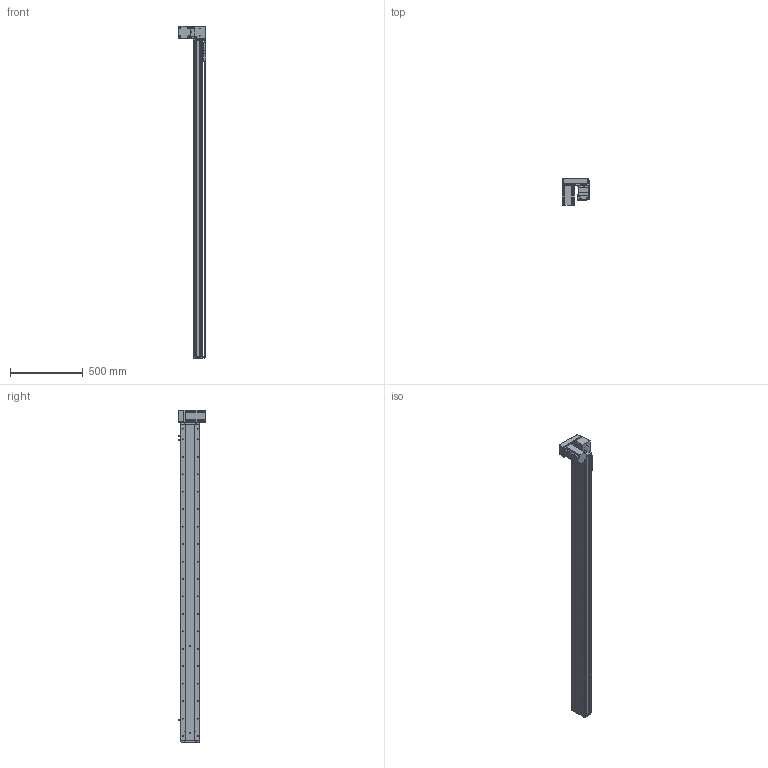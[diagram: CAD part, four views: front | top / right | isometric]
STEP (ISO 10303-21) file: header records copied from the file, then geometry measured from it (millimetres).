
FILE_DESCRIPTION (( 'STEP AP214' ), '1' );
FILE_NAME ('KSD130B-S1950-MRD-CM.STEP', '2019-11-16T02:11:26', ( '微软用户' ), ( '微软中国' ), 'SwSTEP 2.0', 'SolidWorks 2014', '' );
FILE_SCHEMA (( 'AUTOMOTIVE_DESIGN' ));
Length unit declared in the file: millimetre
Products named in the file (12): 覜茼え100遵圉猾敕; U倰嫖萇EEㄜSX672; 130宽盖板半封闭同步带-1950行程; 130宽马达安装板同步带右-改镜向_默认<按加工>; 130宽马达安装板同步带半封闭; 130宽同步带安装座半封闭; 130宽端盖同步带半封闭; 130宽底板半封闭同步带-1950行程; KSD130B-S1950-MRD-CM; 130宽模组保护罩上下左右折-同步带; 台达ECMA－C20807AS伺服电机; 130宽模组马达安装板连板上下折丝杆同步带
Assembly tree (13 placements, depth 2):
  KSD130B-S1950-MRD-CM
    130宽底板半封闭同步带-1950行程
    130宽端盖同步带半封闭
    130宽同步带安装座半封闭
    130宽马达安装板同步带半封闭
    130宽马达安装板同步带右-改镜向_默认<按加工>
    130宽盖板半封闭同步带-1950行程
    U倰嫖萇EEㄜSX672  x3
    覜茼え100遵圉猾敕
    130宽模组马达安装板连板上下折丝杆同步带
    台达ECMA－C20807AS伺服电机
    130宽模组保护罩上下左右折-同步带
Bounding box: 186 x 184.8 x 2283 mm (x, y, z)
Volume: 7527930.2 mm3; surface area: 2143111.6 mm2
Topology: 14 solids, 14 shells, 1779 faces, 5205 edges, 3291 vertices
Faces by surface type: cylinder 882, plane 658, cone 239
Entity records: 61175 total; most frequent: CARTESIAN_POINT 11952, DIRECTION 9199, ORIENTED_EDGE 8918, EDGE_CURVE 4459, AXIS2_PLACEMENT_3D 3398, VERTEX_POINT 2915, VECTOR 2403, LINE 2403
